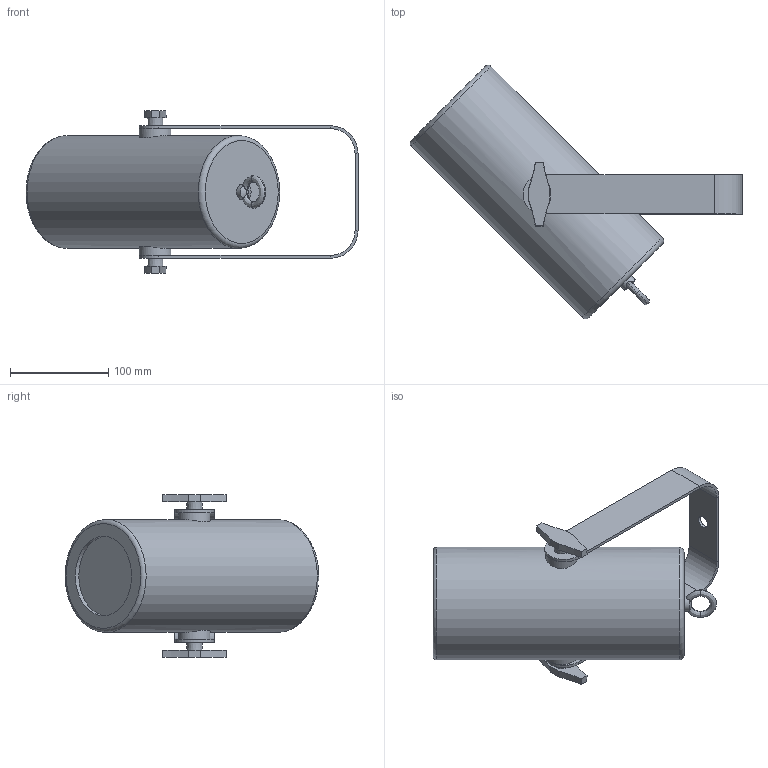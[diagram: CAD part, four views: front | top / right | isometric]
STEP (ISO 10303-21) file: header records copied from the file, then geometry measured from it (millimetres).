
FILE_DESCRIPTION(/* description */ (''),/* implementation_level */ '2;1');
FILE_NAME(/* name */ 'D:/dgooch/Documents/CADENG/PRO/Ovation H-55WW/45/3D/Ovation H-55WW_45.step',/* time_stamp */ '2019-11-13T10:17:50-05:00',/* author */ (''),/* organization */ (''),/* preprocessor_version */ 'ST-DEVELOPER v18',/* originating_system */ 'Autodesk Translation Framework v8.12.0.6',/* authorisation */ '');
FILE_SCHEMA (('AUTOMOTIVE_DESIGN { 1 0 10303 214 3 1 1 }'));
Length unit declared in the file: millimetre
Products named in the file (3): Ovation Mini Houselight; Bracket; Mian
Assembly tree (2 placements, depth 2):
  Ovation Mini Houselight
    Bracket
    Mian
Bounding box: 338.19 x 258.36 x 165.71 mm (x, y, z)
Volume: 2725634.8 mm3; surface area: 175635.8 mm2
Topology: 2 solids, 2 shells, 67 faces, 157 edges, 100 vertices
Faces by surface type: plane 34, cylinder 14, cone 11, bspline 6, torus 2
Full cylindrical faces by diameter (mm): 8.1 x2, 13 x1, 15.3 x1, 32.439 x2, 81 x1, 115 x1
Entity records: 3838 total; most frequent: CARTESIAN_POINT 2239, DIRECTION 317, ORIENTED_EDGE 314, EDGE_CURVE 157, AXIS2_PLACEMENT_3D 126, VERTEX_POINT 100, EDGE_LOOP 81, FACE_OUTER_BOUND 67
